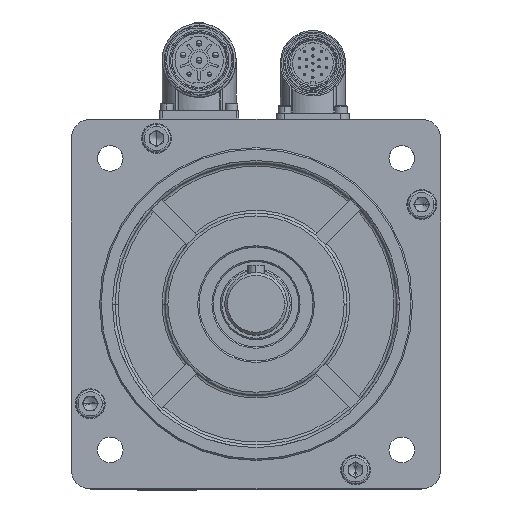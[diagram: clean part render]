
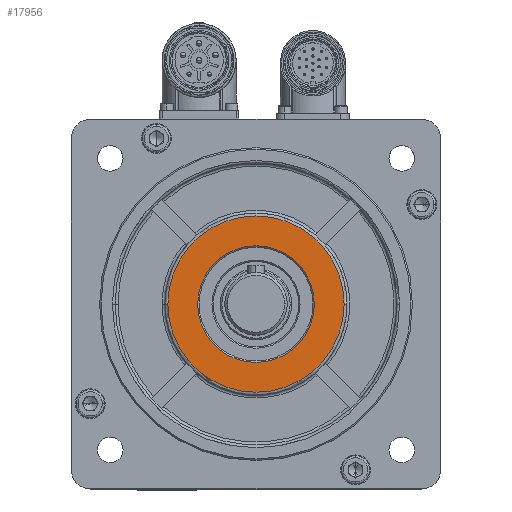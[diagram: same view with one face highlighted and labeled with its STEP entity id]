
A CAD part, top view. The second image highlights one B-rep face of the part: STEP entity #17956.
In plain terms, the highlighted planar face has unit normal (0, 0, 1).
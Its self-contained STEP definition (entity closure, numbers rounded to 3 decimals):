
#239 = CIRCLE ( 'NONE', #3614, 31. ) ;
#3614 = AXIS2_PLACEMENT_3D ( 'NONE', #33481, #19078, #47910 ) ;
#6859 = CARTESIAN_POINT ( 'NONE',  ( -20.5, 0., 30.5 ) ) ;
#8986 = EDGE_LOOP ( 'NONE', ( #9530, #29590 ) ) ;
#9530 = ORIENTED_EDGE ( 'NONE', *, *, #49227, .T. ) ;
#13312 = ORIENTED_EDGE ( 'NONE', *, *, #51559, .T. ) ;
#14051 = CARTESIAN_POINT ( 'NONE',  ( -58.113, -58.113, 30.5 ) ) ;
#14949 = CARTESIAN_POINT ( 'NONE',  ( 0., 0., 30.5 ) ) ;
#14973 = CARTESIAN_POINT ( 'NONE',  ( 0., 0., 30.5 ) ) ;
#15981 = FACE_OUTER_BOUND ( 'NONE', #8986, .T. ) ;
#17956 = ADVANCED_FACE ( 'NONE', ( #15981, #37201 ), #48410, .F. ) ;
#19078 = DIRECTION ( 'NONE',  ( 0., 0., 1. ) ) ;
#19764 = DIRECTION ( 'NONE',  ( 0., 0., -1. ) ) ;
#22781 = VERTEX_POINT ( 'NONE', #60409 ) ;
#25143 = DIRECTION ( 'NONE',  ( 0., 0., -1. ) ) ;
#25461 = DIRECTION ( 'NONE',  ( -1., 0., 0. ) ) ;
#26501 = AXIS2_PLACEMENT_3D ( 'NONE', #49675, #30545, #25461 ) ;
#27024 = VERTEX_POINT ( 'NONE', #46493 ) ;
#29590 = ORIENTED_EDGE ( 'NONE', *, *, #42899, .T. ) ;
#30545 = DIRECTION ( 'NONE',  ( 0., 0., -1. ) ) ;
#32736 = CARTESIAN_POINT ( 'NONE',  ( 31., 0., 30.5 ) ) ;
#33481 = CARTESIAN_POINT ( 'NONE',  ( 0., 0., 30.5 ) ) ;
#35233 = AXIS2_PLACEMENT_3D ( 'NONE', #14949, #59051, #49107 ) ;
#37201 = FACE_BOUND ( 'NONE', #59107, .T. ) ;
#38635 = VERTEX_POINT ( 'NONE', #6859 ) ;
#40099 = EDGE_CURVE ( 'NONE', #22781, #38635, #50106, .T. ) ;
#42899 = EDGE_CURVE ( 'NONE', #48508, #27024, #51501, .T. ) ;
#43785 = DIRECTION ( 'NONE',  ( -1., 0., 0. ) ) ;
#45927 = ORIENTED_EDGE ( 'NONE', *, *, #40099, .T. ) ;
#46493 = CARTESIAN_POINT ( 'NONE',  ( -31., 0., 30.5 ) ) ;
#47910 = DIRECTION ( 'NONE',  ( -1., 0., 0. ) ) ;
#48410 = PLANE ( 'NONE',  #62628 ) ;
#48508 = VERTEX_POINT ( 'NONE', #32736 ) ;
#49107 = DIRECTION ( 'NONE',  ( -1., 0., 0. ) ) ;
#49227 = EDGE_CURVE ( 'NONE', #27024, #48508, #239, .T. ) ;
#49675 = CARTESIAN_POINT ( 'NONE',  ( 0., 0., 30.5 ) ) ;
#50106 = CIRCLE ( 'NONE', #58202, 20.5 ) ;
#51501 = CIRCLE ( 'NONE', #35233, 31. ) ;
#51559 = EDGE_CURVE ( 'NONE', #38635, #22781, #55076, .T. ) ;
#55076 = CIRCLE ( 'NONE', #26501, 20.5 ) ;
#58164 = DIRECTION ( 'NONE',  ( -1., 0., 0. ) ) ;
#58202 = AXIS2_PLACEMENT_3D ( 'NONE', #14973, #25143, #43785 ) ;
#59051 = DIRECTION ( 'NONE',  ( 0., 0., 1. ) ) ;
#59107 = EDGE_LOOP ( 'NONE', ( #45927, #13312 ) ) ;
#60409 = CARTESIAN_POINT ( 'NONE',  ( 20.5, 0., 30.5 ) ) ;
#62628 = AXIS2_PLACEMENT_3D ( 'NONE', #14051, #19764, #58164 ) ;
